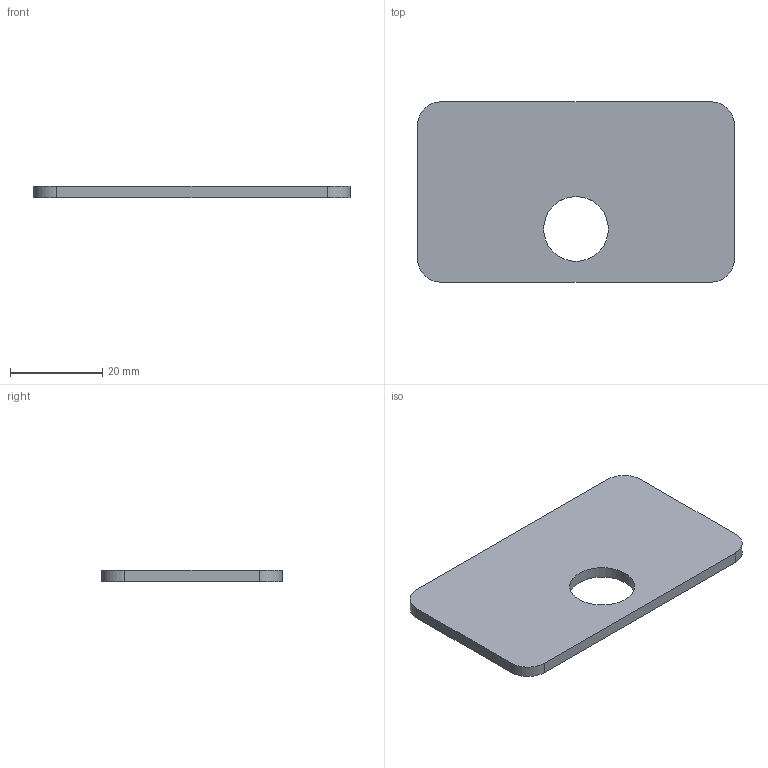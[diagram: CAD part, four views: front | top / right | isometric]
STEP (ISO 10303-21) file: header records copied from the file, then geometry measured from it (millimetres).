
FILE_DESCRIPTION(('Open CASCADE Model'),'2;1');
FILE_NAME('Open CASCADE Shape Model','2026-11-11T21:47:29',('Author'),( 'Open CASCADE'),'Open CASCADE STEP processor 8.0','build123d', 'Unknown');
FILE_SCHEMA(('AUTOMOTIVE_DESIGN { 1 0 10303 214 1 1 1 1 }'));
Length unit declared in the file: millimetre
Products named in the file (1): SOLID
Bounding box: 68.5 x 39 x 2.5 mm (x, y, z)
Volume: 6240.3 mm3; surface area: 5618.2 mm2
Topology: 1 solids, 1 shells, 11 faces, 27 edges, 18 vertices
Faces by surface type: plane 6, cylinder 5
Full cylindrical faces by diameter (mm): 14 x1
Entity records: 708 total; most frequent: CARTESIAN_POINT 135, DIRECTION 111, LINE 61, VECTOR 61, ORIENTED_EDGE 54, PCURVE 54, DEFINITIONAL_REPRESENTATION 54, EDGE_CURVE 27
